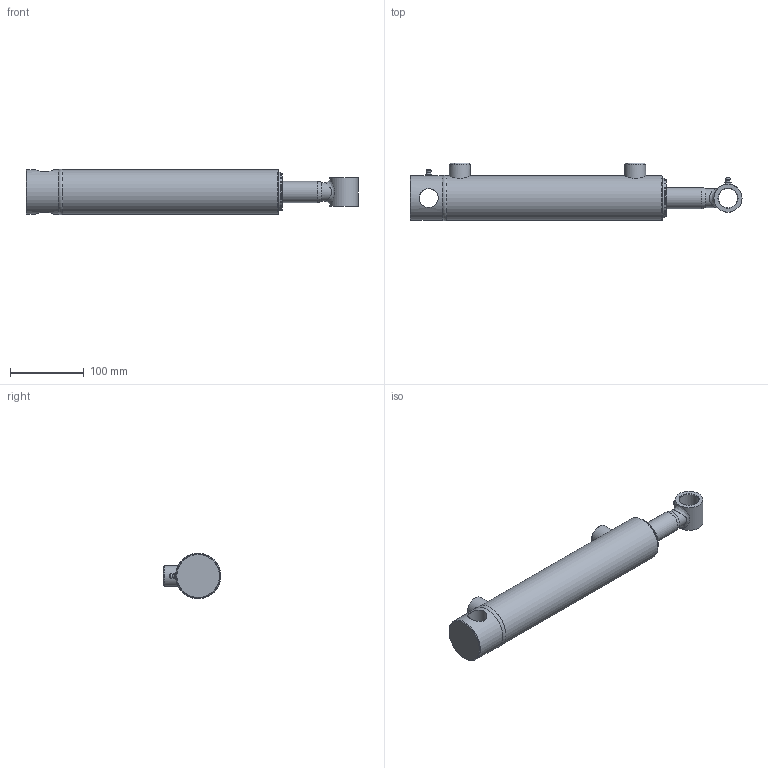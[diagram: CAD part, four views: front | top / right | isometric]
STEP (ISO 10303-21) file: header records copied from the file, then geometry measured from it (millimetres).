
FILE_DESCRIPTION(/* description */ ('Ø2.00 X 8.00 DA'),/* implementation_level */ '2;1');
FILE_NAME(/* name */ 'T:\Aces\Jobs\125b15d2a54b49d6ae6920febcb29ca0\result.stp',/* time_stamp */ '2022-10-05T20:11:37+00:00',/* author */ (''),/* organization */ ('PRINCE MANUFACTURING'),/* preprocessor_version */ 'ST-DEVELOPER v18.1',/* originating_system */ 'Autodesk Inventor 2022',/* authorisation */ '');
FILE_SCHEMA (('AUTOMOTIVE_DESIGN { 1 0 10303 214 3 1 1 }'));
Length unit declared in the file: inch
Products named in the file (21): PC2008011A00-160XYXA; 0611-XYSF000-11600; 0511-T-11600; 161100184; 200015602; 06Weld1_C360; 0711-P-075; 220000208; 0811-G-113; 230025102; 230025002; 240000018; 240061326; 240000326; 0205A-FAW0-13800XA; 0105A-FAW0-13800; 210400807; 02Weld_C360; 240037071; 250001216; 270010020
Assembly tree (22 placements, depth 3):
  PC2008011A00-160XYXA
    0611-XYSF000-11600
      0511-T-11600
      161100184
      200015602  x2
      06Weld1_C360
    0711-P-075
    220000208
    0811-G-113
    230025102
    230025002
    240000018
    240061326
    240000326
    0205A-FAW0-13800XA
      0105A-FAW0-13800
      210400807
      02Weld_C360
    240037071
    250001216
    270010020  x2
Bounding box: 450.85 x 78.61 x 61.85 mm (x, y, z)
Volume: 718114.4 mm3; surface area: 229414.2 mm2
Topology: 24 solids, 24 shells, 404 faces, 950 edges, 616 vertices
Faces by surface type: plane 104, torus 81, cylinder 77, cone 76, bspline 62, sphere 4
Full cylindrical faces by diameter (mm): 2.143 x4, 5.359 x2, 6.35 x2, 9.525 x2, 17.323 x3, 18.237 x1, 18.288 x1, 18.999 x1, 19.126 x1, 21.615 x1, 25.4 x1, 25.781 x2, 28.575 x4, 28.651 x2, 29.21 x2, 31.598 x1, 34.29 x1, 34.9 x2, 34.95 x1, 35.56 x1, 38.1 x2, 41.377 x2, 42.113 x2, 47.231 x2, 47.371 x1, 47.396 x4, 50.186 x2, 50.571 x6, 50.648 x1, 50.8 x4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
Entity records: 27132 total; most frequent: CARTESIAN_POINT 17850, DIRECTION 1756, ORIENTED_EDGE 1698, EDGE_CURVE 849, AXIS2_PLACEMENT_3D 777, VERTEX_POINT 555, CIRCLE 432, EDGE_LOOP 426
